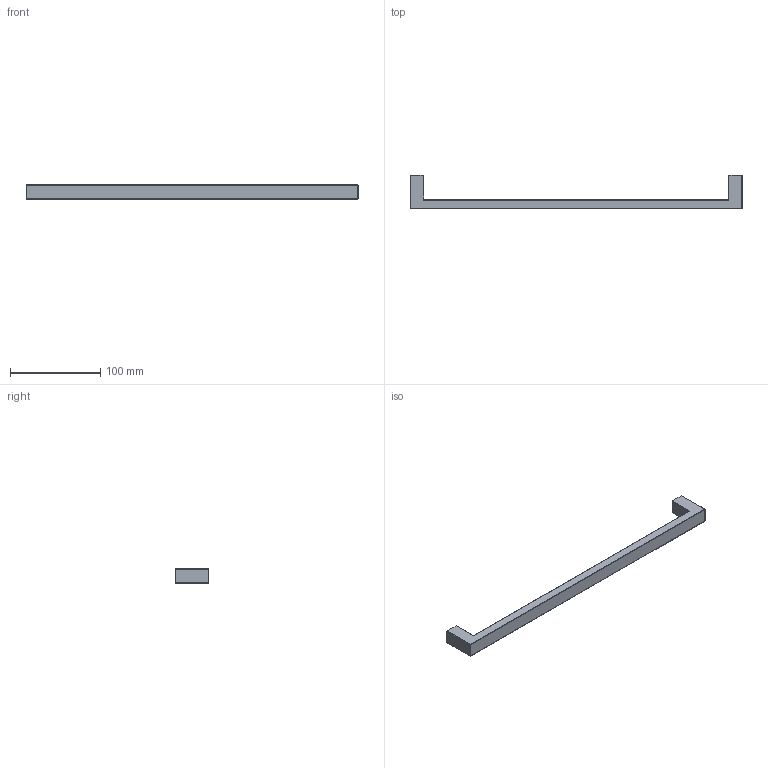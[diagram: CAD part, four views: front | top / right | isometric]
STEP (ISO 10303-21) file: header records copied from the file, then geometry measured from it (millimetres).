
FILE_DESCRIPTION( ( '' ), '1' );
FILE_NAME( 'C:/Documents and Settings/Sachin/Desktop/Sheet 10_1/stp/9113250.stp', '2013-10-22T06:56:15', ( '' ), ( '' ), ' ', ' ', ' ' );
FILE_SCHEMA( ( 'CONFIG_CONTROL_DESIGN' ) );
Length unit declared in the file: millimetre
Products named in the file (1): 1
Bounding box: 367 x 37 x 16 mm (x, y, z)
Volume: 71389.6 mm3; surface area: 22582.6 mm2
Topology: 1 solids, 1 shells, 36 faces, 88 edges, 56 vertices
Faces by surface type: cylinder 20, plane 16
Entity records: 1108 total; most frequent: DIRECTION 198, CARTESIAN_POINT 181, ORIENTED_EDGE 176, EDGE_CURVE 88, AXIS2_PLACEMENT_3D 73, VERTEX_POINT 56, LINE 52, VECTOR 52
